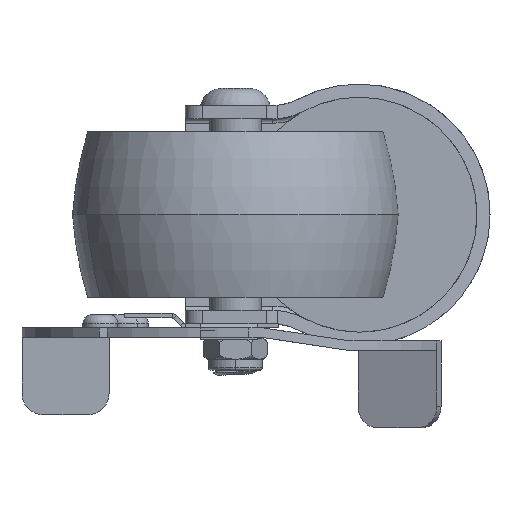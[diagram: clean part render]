
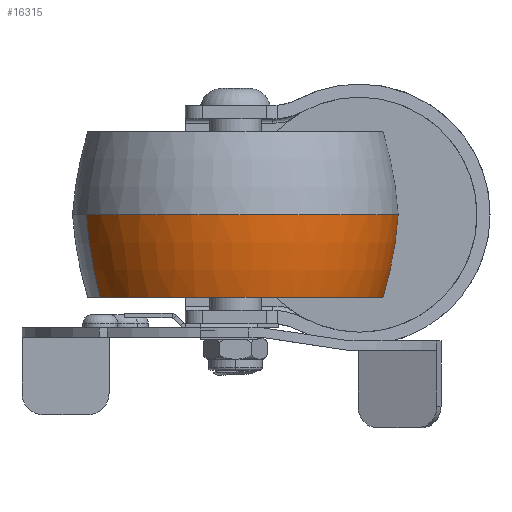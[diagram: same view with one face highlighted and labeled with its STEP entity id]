
A CAD part, front view. The second image highlights one B-rep face of the part: STEP entity #16315.
In plain terms, the highlighted toroidal (fillet/blend) face has major radius 58.182 mm and minor radius 96 mm.
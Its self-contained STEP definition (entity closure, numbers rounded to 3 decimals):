
#292 = CIRCLE ( 'NONE', #6274, 96. ) ;
#706 = VERTEX_POINT ( 'NONE', #4366 ) ;
#2245 = AXIS2_PLACEMENT_3D ( 'NONE', #16380, #4480, #8121 ) ;
#2335 = CARTESIAN_POINT ( 'NONE',  ( -37.5, 0., 0. ) ) ;
#3174 = CIRCLE ( 'NONE', #15527, 96. ) ;
#3597 = CIRCLE ( 'NONE', #12467, 37.5 ) ;
#3893 = ORIENTED_EDGE ( 'NONE', *, *, #18708, .T. ) ;
#4087 = DIRECTION ( 'NONE',  ( 1., 0., 0. ) ) ;
#4157 = DIRECTION ( 'NONE',  ( 0., 0., 1. ) ) ;
#4206 = TOROIDAL_SURFACE ( 'NONE', #2245, -58.182, 96. ) ;
#4366 = CARTESIAN_POINT ( 'NONE',  ( 37.5, 0., 0. ) ) ;
#4480 = DIRECTION ( 'NONE',  ( 0., 0., -1. ) ) ;
#5588 = CARTESIAN_POINT ( 'NONE',  ( 34., 0., -19. ) ) ;
#6170 = EDGE_CURVE ( 'NONE', #18711, #706, #3597, .T. ) ;
#6274 = AXIS2_PLACEMENT_3D ( 'NONE', #11675, #11836, #13429 ) ;
#6633 = CARTESIAN_POINT ( 'NONE',  ( -34., 0., -19. ) ) ;
#7154 = DIRECTION ( 'NONE',  ( 0., 0., 1. ) ) ;
#8121 = DIRECTION ( 'NONE',  ( 1., 0., 0. ) ) ;
#8750 = EDGE_CURVE ( 'NONE', #18711, #9574, #292, .T. ) ;
#9250 = FACE_OUTER_BOUND ( 'NONE', #21444, .T. ) ;
#9574 = VERTEX_POINT ( 'NONE', #6633 ) ;
#10634 = CARTESIAN_POINT ( 'NONE',  ( 0., 0., 0. ) ) ;
#10734 = CIRCLE ( 'NONE', #21170, 34. ) ;
#10837 = ORIENTED_EDGE ( 'NONE', *, *, #6170, .F. ) ;
#11675 = CARTESIAN_POINT ( 'NONE',  ( 58.182, 0., 7.803 ) ) ;
#11836 = DIRECTION ( 'NONE',  ( 0., -1., 0. ) ) ;
#12121 = DIRECTION ( 'NONE',  ( 0., 1., 0. ) ) ;
#12467 = AXIS2_PLACEMENT_3D ( 'NONE', #10634, #19371, #17515 ) ;
#13232 = ORIENTED_EDGE ( 'NONE', *, *, #14134, .F. ) ;
#13429 = DIRECTION ( 'NONE',  ( 1., 0., 0. ) ) ;
#14134 = EDGE_CURVE ( 'NONE', #706, #21913, #3174, .T. ) ;
#14264 = CARTESIAN_POINT ( 'NONE',  ( 0., 0., -19. ) ) ;
#15527 = AXIS2_PLACEMENT_3D ( 'NONE', #15573, #12121, #7154 ) ;
#15573 = CARTESIAN_POINT ( 'NONE',  ( -58.182, 0., 7.803 ) ) ;
#16315 = ADVANCED_FACE ( 'NONE', ( #9250 ), #4206, .T. ) ;
#16380 = CARTESIAN_POINT ( 'NONE',  ( 0., 0., 7.803 ) ) ;
#17515 = DIRECTION ( 'NONE',  ( 1., 0., 0. ) ) ;
#18372 = ORIENTED_EDGE ( 'NONE', *, *, #8750, .T. ) ;
#18708 = EDGE_CURVE ( 'NONE', #9574, #21913, #10734, .T. ) ;
#18711 = VERTEX_POINT ( 'NONE', #2335 ) ;
#19371 = DIRECTION ( 'NONE',  ( 0., 0., 1. ) ) ;
#21170 = AXIS2_PLACEMENT_3D ( 'NONE', #14264, #4157, #4087 ) ;
#21444 = EDGE_LOOP ( 'NONE', ( #10837, #18372, #3893, #13232 ) ) ;
#21913 = VERTEX_POINT ( 'NONE', #5588 ) ;
